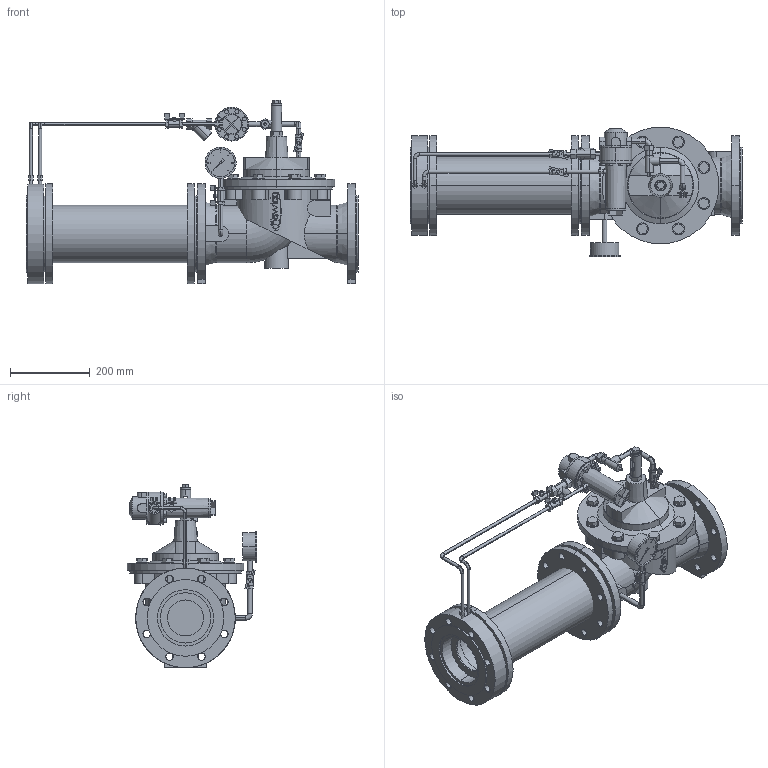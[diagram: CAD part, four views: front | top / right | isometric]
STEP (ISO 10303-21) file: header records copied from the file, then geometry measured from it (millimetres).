
FILE_DESCRIPTION(('STEP AP214'),'1');
FILE_NAME('1709 125 000.STP','2020-04-28T08:36:50',(' '),(' '),'Spatial InterOp 3D',' ',' ');
FILE_SCHEMA(('AUTOMOTIVE_DESIGN { 1 0 10303 214 1 1 1 1 }'));
Length unit declared in the file: millimetre
Products named in the file (1): 3D-Objekt
Bounding box: 831 x 324.5 x 459.8 mm (x, y, z)
Volume: 18258411.6 mm3; surface area: 2139831.9 mm2
Topology: 175 solids, 219 shells, 1352 faces, 3069 edges, 2112 vertices
Faces by surface type: plane 835, cylinder 457, torus 34, cone 26
Entity records: 42515 total; most frequent: CARTESIAN_POINT 7813, DIRECTION 7277, ORIENTED_EDGE 5946, EDGE_CURVE 3069, AXIS2_PLACEMENT_3D 2660, VERTEX_POINT 2112, LINE 1957, VECTOR 1957
